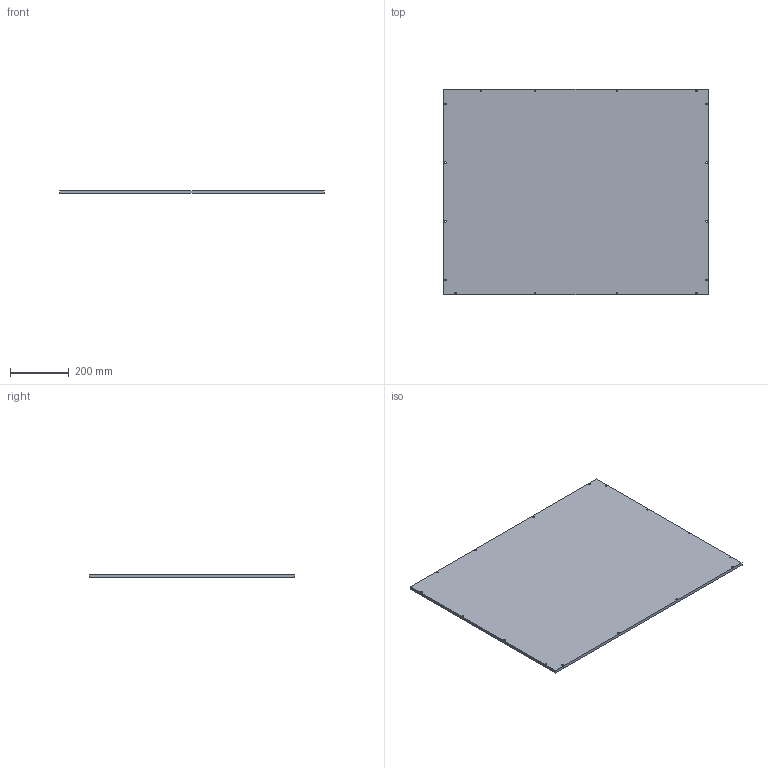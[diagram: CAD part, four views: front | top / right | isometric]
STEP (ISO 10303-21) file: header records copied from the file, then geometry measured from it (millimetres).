
FILE_DESCRIPTION(/* description */ ('Unknown'),/* implementation_level */ '2;1');
FILE_NAME(/* name */ '1_Cover',/* time_stamp */ '2020-07-03T18:45:41+02:00',/* author */ ('Unknown'),/* organization */ ('Unknown'),/* preprocessor_version */ 'ST-DEVELOPER v16.7',/* originating_system */ 'Solid Edge',/* authorisation */ 'Unknown');
FILE_SCHEMA (('AUTOMOTIVE_DESIGN {1 0 10303 214 3 1 1}'));
Length unit declared in the file: millimetre
Products named in the file (1): 1_Cover
Bounding box: 900 x 700 x 10 mm (x, y, z)
Volume: 6295476.1 mm3; surface area: 1294111.2 mm2
Topology: 1 solids, 1 shells, 22 faces, 76 edges, 56 vertices
Faces by surface type: cylinder 16, plane 6
Full cylindrical faces by diameter (mm): 6 x16
Entity records: 730 total; most frequent: DIRECTION 122, CARTESIAN_POINT 107, ORIENTED_EDGE 88, EDGE_LOOP 70, FACE_BOUND 70, AXIS2_PLACEMENT_3D 55, EDGE_CURVE 44, VERTEX_POINT 40
